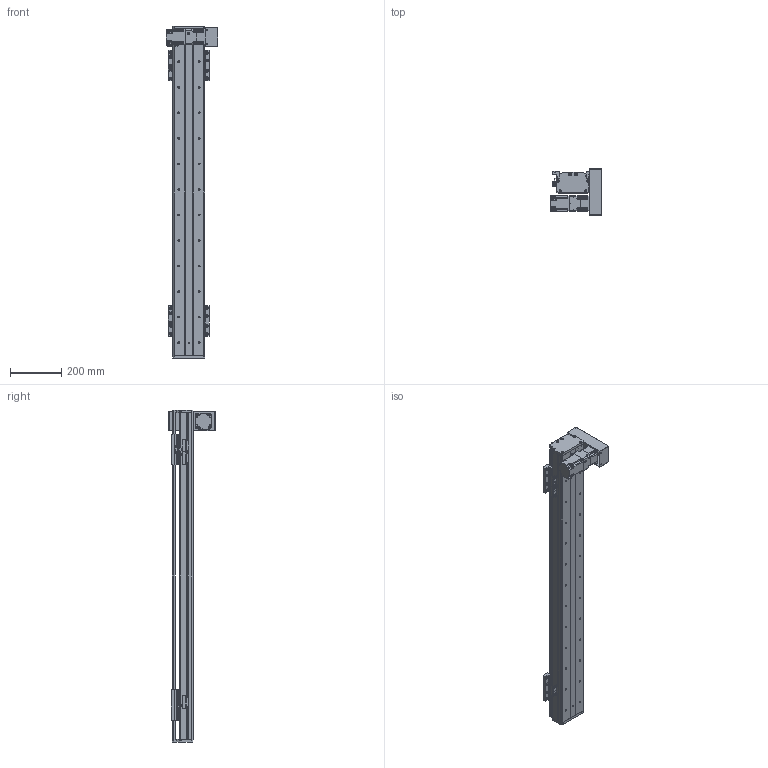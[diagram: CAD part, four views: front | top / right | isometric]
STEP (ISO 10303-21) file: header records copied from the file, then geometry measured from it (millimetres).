
FILE_DESCRIPTION(/* description */ (''),/* implementation_level */ '2;1');
FILE_NAME(/* name */ 'C:\Users\PC\Desktop\3D도면\STEP\새 폴더\DSB125-DR2G-W1000-L.stp',/* time_stamp */ '2018-06-21T14:58:33+09:00',/* author */ ('PC'),/* organization */ (''),/* preprocessor_version */ 'ST-DEVELOPER v16.5',/* originating_system */ 'Autodesk Inventor 2017',/* authorisation */ '');
FILE_SCHEMA (('AUTOMOTIVE_DESIGN { 1 0 10303 214 3 1 1 }'));
Length unit declared in the file: millimetre
Products named in the file (12): DSB125-DL2G-W1000-R_MIR; DSB125-BASE_MIR; DSB125-FRONT COVER_MIR; DSB125-REAR COVER_MIR; DSB125-UP COVER_MIR; hg-kr23__MIR; ab0601-p0401200402_MIR; 13-BELT COVER_MIR; DSR125-SENSOR DOG_MIR; pm-y65_step_MIR; SENSOR BRACKET(EE-SX674A)_MIR; DSB125-TABLE(MSB15S)_MIR
Assembly tree (16 placements, depth 2):
  DSB125-DL2G-W1000-R_MIR
    DSB125-BASE_MIR
    DSB125-FRONT COVER_MIR
    DSB125-REAR COVER_MIR
    DSB125-UP COVER_MIR
    hg-kr23__MIR
    ab0601-p0401200402_MIR
    13-BELT COVER_MIR
    DSR125-SENSOR DOG_MIR
    pm-y65_step_MIR  x3
    SENSOR BRACKET(EE-SX674A)_MIR  x3
    DSB125-TABLE(MSB15S)_MIR  x2
Bounding box: 202.1 x 182 x 1300 mm (x, y, z)
Volume: 4819336 mm3; surface area: 1388243.7 mm2
Topology: 17 solids, 17 shells, 1663 faces, 4510 edges, 2972 vertices
Faces by surface type: plane 903, cylinder 632, cone 116, sphere 8, torus 4
Full cylindrical faces by diameter (mm): 2.459 x20, 3.242 x16, 3.5 x6, 4 x1, 4.134 x16, 4.2 x4, 4.3 x1, 4.5 x50, 4.917 x20, 5 x22, 5.3 x1, 5.5 x4, 5.6 x8, 5.8 x4, 5.9 x8, 6 x4, 6.6 x22, 6.647 x26, 7.5 x32, 8.5 x8, 8.7 x1, 11 x22, 14 x1, 16 x2, 17 x1, 20 x1, 47 x1, 50 x3
Entity records: 36053 total; most frequent: CARTESIAN_POINT 6495, DIRECTION 6122, ORIENTED_EDGE 5482, EDGE_CURVE 2741, AXIS2_PLACEMENT_3D 2249, VERTEX_POINT 1950, EDGE_LOOP 1677, LINE 1624
